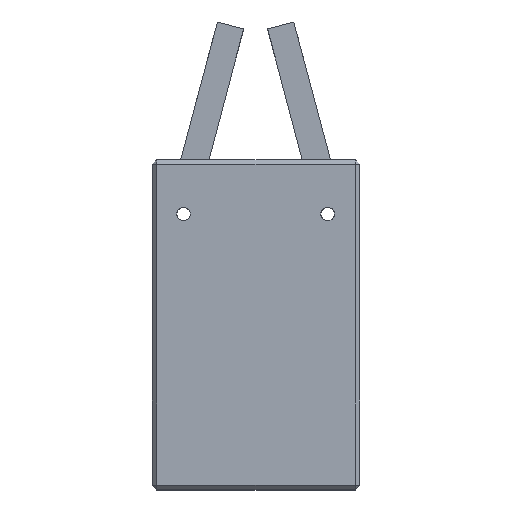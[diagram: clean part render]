
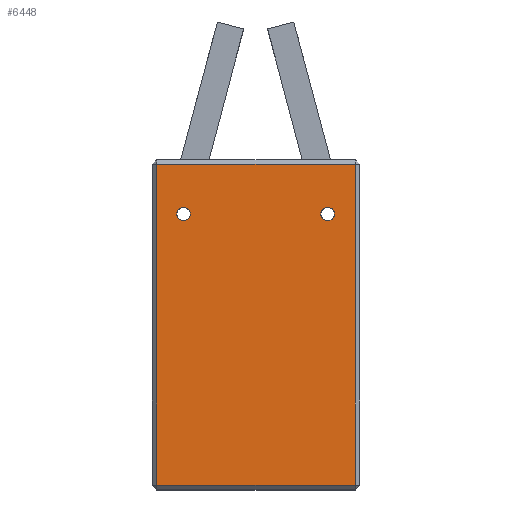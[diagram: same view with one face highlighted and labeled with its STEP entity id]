
A CAD part, top view. The second image highlights one B-rep face of the part: STEP entity #6448.
In plain terms, the highlighted planar face has unit normal (0, 0, 1).
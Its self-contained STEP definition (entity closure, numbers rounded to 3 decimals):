
#5280 = ORIENTED_EDGE ( 'NONE', *, *, #6283, .T. ) ;
#6208 = VERTEX_POINT ( 'NONE', #19942 ) ;
#6231 = VERTEX_POINT ( 'NONE', #20025 ) ;
#6266 = EDGE_CURVE ( 'NONE', #6273, #6208, #20148, .T. ) ;
#6273 = VERTEX_POINT ( 'NONE', #20117 ) ;
#6275 = ORIENTED_EDGE ( 'NONE', *, *, #6276, .T. ) ;
#6276 = EDGE_CURVE ( 'NONE', #6231, #6287, #20119, .T. ) ;
#6280 = ORIENTED_EDGE ( 'NONE', *, *, #6266, .T. ) ;
#6283 = EDGE_CURVE ( 'NONE', #6208, #6231, #20212, .T. ) ;
#6287 = VERTEX_POINT ( 'NONE', #20209 ) ;
#6297 = EDGE_LOOP ( 'NONE', ( #6280, #5280, #6275, #6360 ) ) ;
#6301 = ORIENTED_EDGE ( 'NONE', *, *, #29925, .F. ) ;
#6360 = ORIENTED_EDGE ( 'NONE', *, *, #6426, .T. ) ;
#6393 = EDGE_LOOP ( 'NONE', ( #6406, #6413 ) ) ;
#6406 = ORIENTED_EDGE ( 'NONE', *, *, #6433, .F. ) ;
#6413 = ORIENTED_EDGE ( 'NONE', *, *, #30430, .F. ) ;
#6426 = EDGE_CURVE ( 'NONE', #6287, #6273, #20668, .T. ) ;
#6428 = EDGE_LOOP ( 'NONE', ( #6431, #6301 ) ) ;
#6431 = ORIENTED_EDGE ( 'NONE', *, *, #6437, .F. ) ;
#6433 = EDGE_CURVE ( 'NONE', #29167, #30272, #19691, .T. ) ;
#6437 = EDGE_CURVE ( 'NONE', #29174, #29197, #20783, .T. ) ;
#6448 = ADVANCED_FACE ( 'NONE', ( #20761, #20752, #20781 ), #20742, .F. ) ;
#13261 = CARTESIAN_POINT ( 'NONE',  ( 20.177, 30.5, 16. ) ) ;
#13296 = CARTESIAN_POINT ( 'NONE',  ( 4.236, 30.5, 16. ) ) ;
#13316 = CARTESIAN_POINT ( 'NONE',  ( 2.736, 30.5, 16. ) ) ;
#16468 = CIRCLE ( 'NONE', #16521, 0.75 ) ;
#16487 = CARTESIAN_POINT ( 'NONE',  ( 3.486, 30.5, 16. ) ) ;
#16519 = DIRECTION ( 'NONE',  ( 1., 0., 0. ) ) ;
#16520 = DIRECTION ( 'NONE',  ( 0., 0., 1. ) ) ;
#16521 = AXIS2_PLACEMENT_3D ( 'NONE', #16487, #16520, #16519 ) ;
#19533 = CARTESIAN_POINT ( 'NONE',  ( 18.677, 30.5, 16. ) ) ;
#19678 = DIRECTION ( 'NONE',  ( 1., 0., 0. ) ) ;
#19680 = DIRECTION ( 'NONE',  ( 0., 0., 1. ) ) ;
#19688 = AXIS2_PLACEMENT_3D ( 'NONE', #19727, #19680, #19678 ) ;
#19691 = CIRCLE ( 'NONE', #19688, 0.75 ) ;
#19727 = CARTESIAN_POINT ( 'NONE',  ( 19.427, 30.5, 16. ) ) ;
#19942 = CARTESIAN_POINT ( 'NONE',  ( 22.5, 0.5, 16. ) ) ;
#20025 = CARTESIAN_POINT ( 'NONE',  ( 22.5, 36., 16. ) ) ;
#20117 = CARTESIAN_POINT ( 'NONE',  ( 0.5, 0.5, 16. ) ) ;
#20118 = CARTESIAN_POINT ( 'NONE',  ( 0., 36., 16. ) ) ;
#20119 = LINE ( 'NONE', #20118, #20236 ) ;
#20141 = DIRECTION ( 'NONE',  ( 1., 0., 0. ) ) ;
#20143 = VECTOR ( 'NONE', #20141, 1000. ) ;
#20145 = CARTESIAN_POINT ( 'NONE',  ( 0., 0.5, 16. ) ) ;
#20148 = LINE ( 'NONE', #20145, #20143 ) ;
#20202 = DIRECTION ( 'NONE',  ( 0., 1., 0. ) ) ;
#20204 = VECTOR ( 'NONE', #20202, 1000. ) ;
#20206 = CARTESIAN_POINT ( 'NONE',  ( 22.5, 36.5, 16. ) ) ;
#20209 = CARTESIAN_POINT ( 'NONE',  ( 0.5, 36., 16. ) ) ;
#20212 = LINE ( 'NONE', #20206, #20204 ) ;
#20235 = DIRECTION ( 'NONE',  ( -1., 0., 0. ) ) ;
#20236 = VECTOR ( 'NONE', #20235, 1000. ) ;
#20612 = DIRECTION ( 'NONE',  ( 1., 0., 0. ) ) ;
#20613 = DIRECTION ( 'NONE',  ( 0., 0., 1. ) ) ;
#20614 = CARTESIAN_POINT ( 'NONE',  ( 19.427, 30.5, 16. ) ) ;
#20615 = AXIS2_PLACEMENT_3D ( 'NONE', #20614, #20613, #20612 ) ;
#20642 = CIRCLE ( 'NONE', #20615, 0.75 ) ;
#20664 = DIRECTION ( 'NONE',  ( 0., -1., 0. ) ) ;
#20665 = VECTOR ( 'NONE', #20664, 1000. ) ;
#20667 = CARTESIAN_POINT ( 'NONE',  ( 0.5, 36.5, 16. ) ) ;
#20668 = LINE ( 'NONE', #20667, #20665 ) ;
#20737 = DIRECTION ( 'NONE',  ( -1., 0., 0. ) ) ;
#20739 = DIRECTION ( 'NONE',  ( 0., 0., -1. ) ) ;
#20740 = CARTESIAN_POINT ( 'NONE',  ( 0., 36.5, 16. ) ) ;
#20741 = AXIS2_PLACEMENT_3D ( 'NONE', #20740, #20739, #20737 ) ;
#20742 = PLANE ( 'NONE',  #20741 ) ;
#20752 = FACE_BOUND ( 'NONE', #6393, .T. ) ;
#20761 = FACE_OUTER_BOUND ( 'NONE', #6297, .T. ) ;
#20763 = DIRECTION ( 'NONE',  ( 1., 0., 0. ) ) ;
#20765 = DIRECTION ( 'NONE',  ( 0., 0., 1. ) ) ;
#20767 = CARTESIAN_POINT ( 'NONE',  ( 3.486, 30.5, 16. ) ) ;
#20769 = AXIS2_PLACEMENT_3D ( 'NONE', #20767, #20765, #20763 ) ;
#20781 = FACE_BOUND ( 'NONE', #6428, .T. ) ;
#20783 = CIRCLE ( 'NONE', #20769, 0.75 ) ;
#29167 = VERTEX_POINT ( 'NONE', #13261 ) ;
#29174 = VERTEX_POINT ( 'NONE', #13296 ) ;
#29197 = VERTEX_POINT ( 'NONE', #13316 ) ;
#29925 = EDGE_CURVE ( 'NONE', #29197, #29174, #16468, .T. ) ;
#30272 = VERTEX_POINT ( 'NONE', #19533 ) ;
#30430 = EDGE_CURVE ( 'NONE', #30272, #29167, #20642, .T. ) ;
